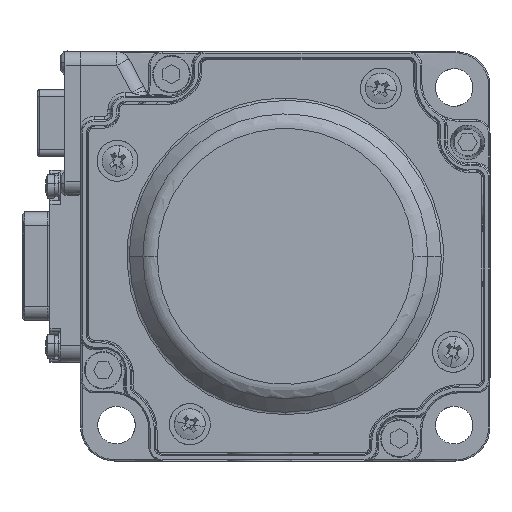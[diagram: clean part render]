
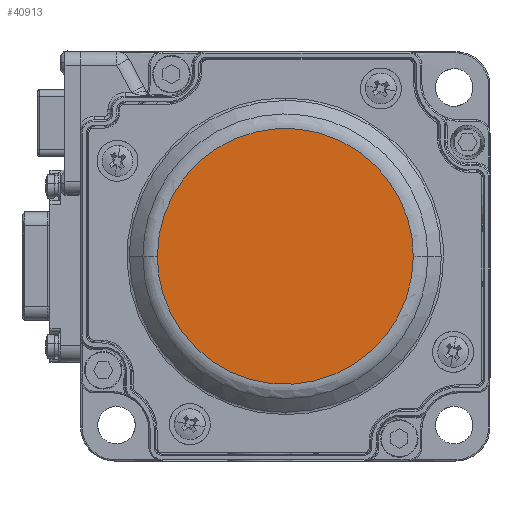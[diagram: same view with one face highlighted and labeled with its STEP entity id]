
A CAD part, left-side view. The second image highlights one B-rep face of the part: STEP entity #40913.
In plain terms, the highlighted planar face has unit normal (-1, 0, 0).
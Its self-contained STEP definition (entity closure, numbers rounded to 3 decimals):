
#246 = CARTESIAN_POINT ( 'NONE',  ( -88.185, -20.138, 171.993 ) ) ;
#353 = VERTEX_POINT ( 'NONE', #17229 ) ;
#498 = CARTESIAN_POINT ( 'NONE',  ( -88.185, -13.781, 163.123 ) ) ;
#775 = CARTESIAN_POINT ( 'NONE',  ( -88.185, -50.216, 159.535 ) ) ;
#1520 = DIRECTION ( 'NONE',  ( 0., 1., 0. ) ) ;
#2166 = CARTESIAN_POINT ( 'NONE',  ( -88.185, -22.18, 140.801 ) ) ;
#2686 = CARTESIAN_POINT ( 'NONE',  ( -88.185, -19.185, 142.948 ) ) ;
#3194 = CARTESIAN_POINT ( 'NONE',  ( -88.185, -23.268, 140.22 ) ) ;
#4908 = CARTESIAN_POINT ( 'NONE',  ( -88.185, -45.712, 169.475 ) ) ;
#5055 = CARTESIAN_POINT ( 'NONE',  ( -88.185, -39.892, 140.22 ) ) ;
#5155 = CARTESIAN_POINT ( 'NONE',  ( -88.185, -12.823, 157.079 ) ) ;
#5309 = CARTESIAN_POINT ( 'NONE',  ( -88.185, -34.035, 138.443 ) ) ;
#5848 = B_SPLINE_CURVE_WITH_KNOTS ( 'NONE', 3,
 ( #13346, #40606, #21129, #44506, #41607, #25788, #9956, #45019, #40860, #17757, #33586, #29705, #5055, #17000, #32840, #5309, #33099, #48882, #9448, #41106, #33854, #3194, #2166, #22906, #2686, #18770, #38483, #46532, #14099, #34608, #14346, #6830, #11221, #10453 ),
 .UNSPECIFIED., .F., .F.,
 ( 4, 2, 2, 2, 2, 2, 2, 2, 2, 2, 2, 2, 2, 2, 2, 2, 4 ),
 ( 0., 0.063, 0.125, 0.188, 0.25, 0.313, 0.375, 0.438, 0.5, 0.563, 0.625, 0.688, 0.75, 0.813, 0.875, 0.938, 1. ),
 .UNSPECIFIED. ) ;
#6830 = CARTESIAN_POINT ( 'NONE',  ( -88.185, -12.944, 154.624 ) ) ;
#8018 = CARTESIAN_POINT ( 'NONE',  ( -88.185, -47.858, 166.48 ) ) ;
#9050 = CARTESIAN_POINT ( 'NONE',  ( -88.185, -48.44, 165.392 ) ) ;
#9448 = CARTESIAN_POINT ( 'NONE',  ( -88.185, -29.125, 138.443 ) ) ;
#9584 = EDGE_CURVE ( 'NONE', #353, #50556, #12598, .T. ) ;
#9956 = CARTESIAN_POINT ( 'NONE',  ( -88.185, -47.858, 147.679 ) ) ;
#10453 = CARTESIAN_POINT ( 'NONE',  ( -88.185, -12.823, 157.079 ) ) ;
#11221 = CARTESIAN_POINT ( 'NONE',  ( -88.185, -12.823, 155.852 ) ) ;
#12160 = CARTESIAN_POINT ( 'NONE',  ( -88.185, -22.18, 173.358 ) ) ;
#12598 = B_SPLINE_CURVE_WITH_KNOTS ( 'NONE', 3,
 ( #5155, #19964, #20211, #24874, #498, #36042, #35548, #24609, #12933, #48469, #246, #12160, #48212, #28534, #47446, #43571, #51335, #28790, #44338, #16586, #40452, #16311, #32180, #28278, #16056, #4908, #32686, #8018, #9050, #40710, #15805, #775, #44079, #31663 ),
 .UNSPECIFIED., .F., .F.,
 ( 4, 2, 2, 2, 2, 2, 2, 2, 2, 2, 2, 2, 2, 2, 2, 2, 4 ),
 ( 0., 0.063, 0.125, 0.188, 0.25, 0.313, 0.375, 0.437, 0.5, 0.562, 0.625, 0.688, 0.75, 0.813, 0.875, 0.938, 1. ),
 .UNSPECIFIED. ) ;
#12933 = CARTESIAN_POINT ( 'NONE',  ( -88.185, -17.448, 169.475 ) ) ;
#13346 = CARTESIAN_POINT ( 'NONE',  ( -88.185, -50.337, 157.079 ) ) ;
#14099 = CARTESIAN_POINT ( 'NONE',  ( -88.185, -14.72, 148.767 ) ) ;
#14346 = CARTESIAN_POINT ( 'NONE',  ( -88.185, -13.423, 152.216 ) ) ;
#14459 = EDGE_CURVE ( 'NONE', #50556, #353, #5848, .T. ) ;
#15805 = CARTESIAN_POINT ( 'NONE',  ( -88.185, -49.737, 161.943 ) ) ;
#16056 = CARTESIAN_POINT ( 'NONE',  ( -88.185, -43.975, 171.211 ) ) ;
#16311 = CARTESIAN_POINT ( 'NONE',  ( -88.185, -39.892, 173.939 ) ) ;
#16586 = CARTESIAN_POINT ( 'NONE',  ( -88.185, -36.443, 175.237 ) ) ;
#17000 = CARTESIAN_POINT ( 'NONE',  ( -88.185, -37.624, 139.28 ) ) ;
#17099 = PLANE ( 'NONE',  #22184 ) ;
#17229 = CARTESIAN_POINT ( 'NONE',  ( -88.185, -12.823, 157.079 ) ) ;
#17757 = CARTESIAN_POINT ( 'NONE',  ( -88.185, -43.975, 142.948 ) ) ;
#18770 = CARTESIAN_POINT ( 'NONE',  ( -88.185, -17.448, 144.684 ) ) ;
#18911 = ORIENTED_EDGE ( 'NONE', *, *, #14459, .F. ) ;
#19706 = FACE_OUTER_BOUND ( 'NONE', #24013, .T. ) ;
#19964 = CARTESIAN_POINT ( 'NONE',  ( -88.185, -12.823, 158.307 ) ) ;
#20211 = CARTESIAN_POINT ( 'NONE',  ( -88.185, -12.944, 159.535 ) ) ;
#21129 = CARTESIAN_POINT ( 'NONE',  ( -88.185, -50.216, 154.624 ) ) ;
#22184 = AXIS2_PLACEMENT_3D ( 'NONE', #44863, #25123, #1520 ) ;
#22906 = CARTESIAN_POINT ( 'NONE',  ( -88.185, -20.138, 142.165 ) ) ;
#24013 = EDGE_LOOP ( 'NONE', ( #31678, #18911 ) ) ;
#24609 = CARTESIAN_POINT ( 'NONE',  ( -88.185, -16.666, 168.521 ) ) ;
#24874 = CARTESIAN_POINT ( 'NONE',  ( -88.185, -13.423, 161.943 ) ) ;
#25123 = DIRECTION ( 'NONE',  ( 1., 0., 0. ) ) ;
#25788 = CARTESIAN_POINT ( 'NONE',  ( -88.185, -48.44, 148.767 ) ) ;
#28278 = CARTESIAN_POINT ( 'NONE',  ( -88.185, -43.022, 171.993 ) ) ;
#28534 = CARTESIAN_POINT ( 'NONE',  ( -88.185, -25.536, 174.879 ) ) ;
#28790 = CARTESIAN_POINT ( 'NONE',  ( -88.185, -32.808, 175.837 ) ) ;
#29705 = CARTESIAN_POINT ( 'NONE',  ( -88.185, -40.98, 140.801 ) ) ;
#31663 = CARTESIAN_POINT ( 'NONE',  ( -88.185, -50.337, 157.079 ) ) ;
#31678 = ORIENTED_EDGE ( 'NONE', *, *, #9584, .F. ) ;
#32180 = CARTESIAN_POINT ( 'NONE',  ( -88.185, -40.98, 173.358 ) ) ;
#32686 = CARTESIAN_POINT ( 'NONE',  ( -88.185, -46.494, 168.521 ) ) ;
#32840 = CARTESIAN_POINT ( 'NONE',  ( -88.185, -36.443, 138.922 ) ) ;
#33099 = CARTESIAN_POINT ( 'NONE',  ( -88.185, -32.808, 138.322 ) ) ;
#33586 = CARTESIAN_POINT ( 'NONE',  ( -88.185, -43.022, 142.165 ) ) ;
#33854 = CARTESIAN_POINT ( 'NONE',  ( -88.185, -25.536, 139.28 ) ) ;
#34608 = CARTESIAN_POINT ( 'NONE',  ( -88.185, -13.781, 151.035 ) ) ;
#35548 = CARTESIAN_POINT ( 'NONE',  ( -88.185, -15.302, 166.48 ) ) ;
#36042 = CARTESIAN_POINT ( 'NONE',  ( -88.185, -14.72, 165.392 ) ) ;
#38483 = CARTESIAN_POINT ( 'NONE',  ( -88.185, -16.666, 145.638 ) ) ;
#40452 = CARTESIAN_POINT ( 'NONE',  ( -88.185, -37.624, 174.879 ) ) ;
#40606 = CARTESIAN_POINT ( 'NONE',  ( -88.185, -50.337, 155.852 ) ) ;
#40710 = CARTESIAN_POINT ( 'NONE',  ( -88.185, -49.379, 163.123 ) ) ;
#40860 = CARTESIAN_POINT ( 'NONE',  ( -88.185, -45.712, 144.684 ) ) ;
#40913 = ADVANCED_FACE ( 'NONE', ( #19706 ), #17099, .F. ) ;
#41106 = CARTESIAN_POINT ( 'NONE',  ( -88.185, -26.717, 138.922 ) ) ;
#41607 = CARTESIAN_POINT ( 'NONE',  ( -88.185, -49.379, 151.035 ) ) ;
#43571 = CARTESIAN_POINT ( 'NONE',  ( -88.185, -29.125, 175.716 ) ) ;
#44079 = CARTESIAN_POINT ( 'NONE',  ( -88.185, -50.337, 158.307 ) ) ;
#44311 = CARTESIAN_POINT ( 'NONE',  ( -88.185, -50.337, 157.079 ) ) ;
#44338 = CARTESIAN_POINT ( 'NONE',  ( -88.185, -34.035, 175.716 ) ) ;
#44506 = CARTESIAN_POINT ( 'NONE',  ( -88.185, -49.737, 152.216 ) ) ;
#44863 = CARTESIAN_POINT ( 'NONE',  ( -88.185, -11.58, 157.079 ) ) ;
#45019 = CARTESIAN_POINT ( 'NONE',  ( -88.185, -46.494, 145.638 ) ) ;
#46532 = CARTESIAN_POINT ( 'NONE',  ( -88.185, -15.302, 147.679 ) ) ;
#47446 = CARTESIAN_POINT ( 'NONE',  ( -88.185, -26.717, 175.237 ) ) ;
#48212 = CARTESIAN_POINT ( 'NONE',  ( -88.185, -23.268, 173.939 ) ) ;
#48469 = CARTESIAN_POINT ( 'NONE',  ( -88.185, -19.185, 171.211 ) ) ;
#48882 = CARTESIAN_POINT ( 'NONE',  ( -88.185, -30.352, 138.322 ) ) ;
#50556 = VERTEX_POINT ( 'NONE', #44311 ) ;
#51335 = CARTESIAN_POINT ( 'NONE',  ( -88.185, -30.352, 175.837 ) ) ;
